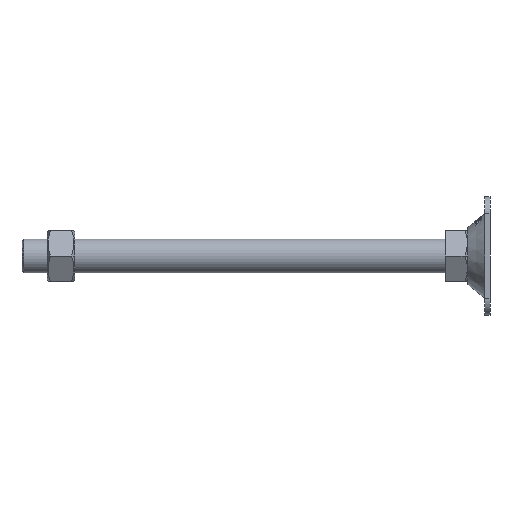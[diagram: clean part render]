
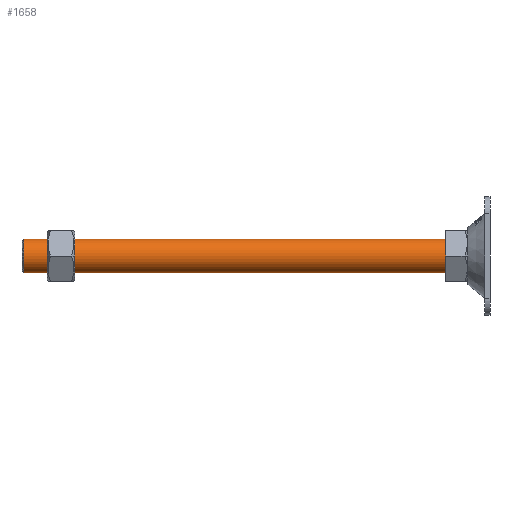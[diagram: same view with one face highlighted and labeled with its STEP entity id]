
A CAD part, left-side view. The second image highlights one B-rep face of the part: STEP entity #1658.
In plain terms, the highlighted cylindrical face has radius 10 mm (diameter 20 mm), a partial arc.
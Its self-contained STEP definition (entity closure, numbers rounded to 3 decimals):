
#273 = ORIENTED_EDGE ( 'NONE', *, *, #2837, .T. ) ;
#405 = VECTOR ( 'NONE', #5700, 1000. ) ;
#497 = EDGE_CURVE ( 'NONE', #1603, #2138, #6045, .T. ) ;
#550 = VECTOR ( 'NONE', #5032, 1000. ) ;
#699 = FACE_OUTER_BOUND ( 'NONE', #3682, .T. ) ;
#829 = ORIENTED_EDGE ( 'NONE', *, *, #2824, .T. ) ;
#1009 = CARTESIAN_POINT ( 'NONE',  ( 0., 262., 10. ) ) ;
#1397 = DIRECTION ( 'NONE',  ( 0., 0., 1. ) ) ;
#1603 = VERTEX_POINT ( 'NONE', #1009 ) ;
#1658 = ADVANCED_FACE ( 'NONE', ( #699 ), #2086, .T. ) ;
#1810 = VERTEX_POINT ( 'NONE', #2868 ) ;
#1854 = DIRECTION ( 'NONE',  ( 0., 1., 0. ) ) ;
#2065 = CARTESIAN_POINT ( 'NONE',  ( 0., 262., -10. ) ) ;
#2086 = CYLINDRICAL_SURFACE ( 'NONE', #2655, 10. ) ;
#2138 = VERTEX_POINT ( 'NONE', #3703 ) ;
#2466 = LINE ( 'NONE', #3897, #405 ) ;
#2590 = AXIS2_PLACEMENT_3D ( 'NONE', #3620, #4582, #4491 ) ;
#2655 = AXIS2_PLACEMENT_3D ( 'NONE', #3217, #3979, #4143 ) ;
#2824 = EDGE_CURVE ( 'NONE', #1810, #2138, #5718, .T. ) ;
#2837 = EDGE_CURVE ( 'NONE', #4544, #1810, #2466, .T. ) ;
#2868 = CARTESIAN_POINT ( 'NONE',  ( 0., 13., -10. ) ) ;
#3155 = CARTESIAN_POINT ( 'NONE',  ( 0., 11., 10. ) ) ;
#3217 = CARTESIAN_POINT ( 'NONE',  ( 0., 11., 0. ) ) ;
#3620 = CARTESIAN_POINT ( 'NONE',  ( 0., 262., 0. ) ) ;
#3682 = EDGE_LOOP ( 'NONE', ( #4871, #4894, #273, #829 ) ) ;
#3703 = CARTESIAN_POINT ( 'NONE',  ( 0., 13., 10. ) ) ;
#3897 = CARTESIAN_POINT ( 'NONE',  ( 0., 11., -10. ) ) ;
#3979 = DIRECTION ( 'NONE',  ( 0., -1., 0. ) ) ;
#4143 = DIRECTION ( 'NONE',  ( 0., 0., -1. ) ) ;
#4491 = DIRECTION ( 'NONE',  ( 0., 0., -1. ) ) ;
#4544 = VERTEX_POINT ( 'NONE', #2065 ) ;
#4582 = DIRECTION ( 'NONE',  ( 0., -1., 0. ) ) ;
#4845 = AXIS2_PLACEMENT_3D ( 'NONE', #6071, #1854, #1397 ) ;
#4871 = ORIENTED_EDGE ( 'NONE', *, *, #497, .F. ) ;
#4894 = ORIENTED_EDGE ( 'NONE', *, *, #4919, .T. ) ;
#4919 = EDGE_CURVE ( 'NONE', #1603, #4544, #5731, .T. ) ;
#5032 = DIRECTION ( 'NONE',  ( 0., -1., 0. ) ) ;
#5700 = DIRECTION ( 'NONE',  ( 0., -1., 0. ) ) ;
#5718 = CIRCLE ( 'NONE', #4845, 10. ) ;
#5731 = CIRCLE ( 'NONE', #2590, 10. ) ;
#6045 = LINE ( 'NONE', #3155, #550 ) ;
#6071 = CARTESIAN_POINT ( 'NONE',  ( 0., 13., 0. ) ) ;
